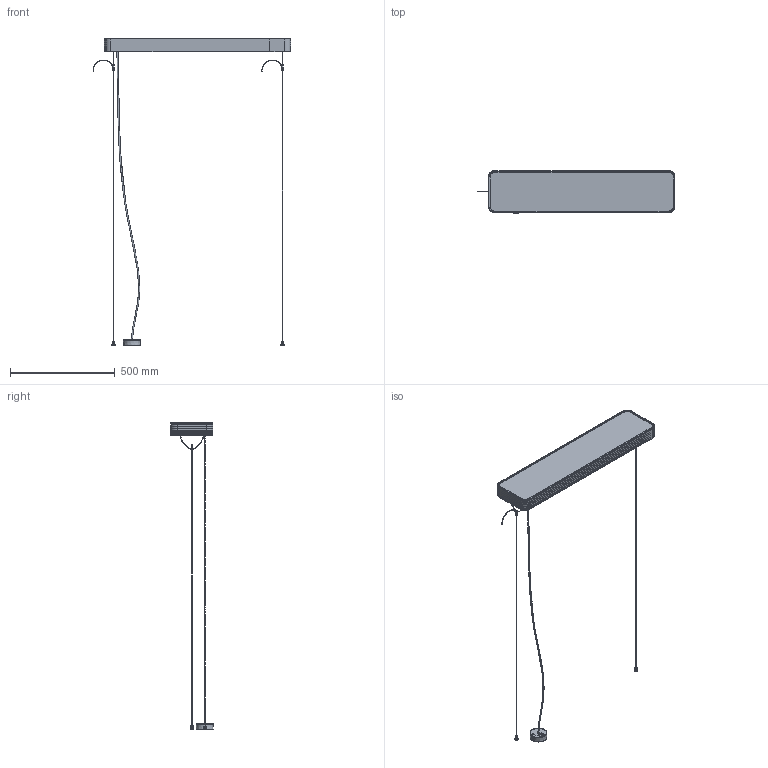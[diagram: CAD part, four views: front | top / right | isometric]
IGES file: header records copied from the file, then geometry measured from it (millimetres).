
Start section: SolidWorks IGES file using analytic representation for surfaces
Global section: file name: \\DC2003\projekty\soft\Profil 3D\Gotowe softy\SOFT 900x200_zwis.IGS; native system: SolidWorks 2016; preprocessor: SolidWorks 2016; author: Asia; date: 160711.124205; units: millimetre
Bounding box: 943.5 x 200.64 x 1459.18 mm (x, y, z)
Surface area: 1618326.9 mm2 (no closed solid volume)
Topology: 0 solids, 0 shells, 1756 faces, 29892 edges, 29876 vertices
Faces by surface type: revolution 890, bspline 866
